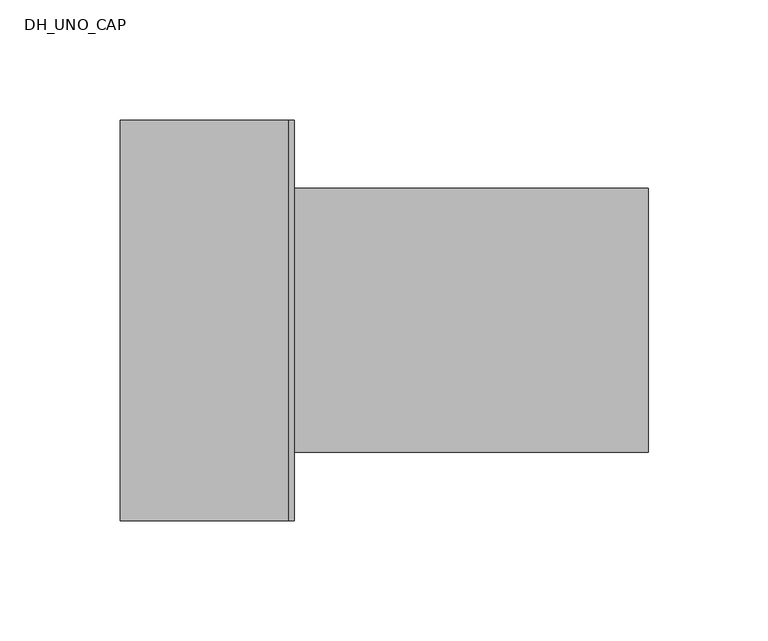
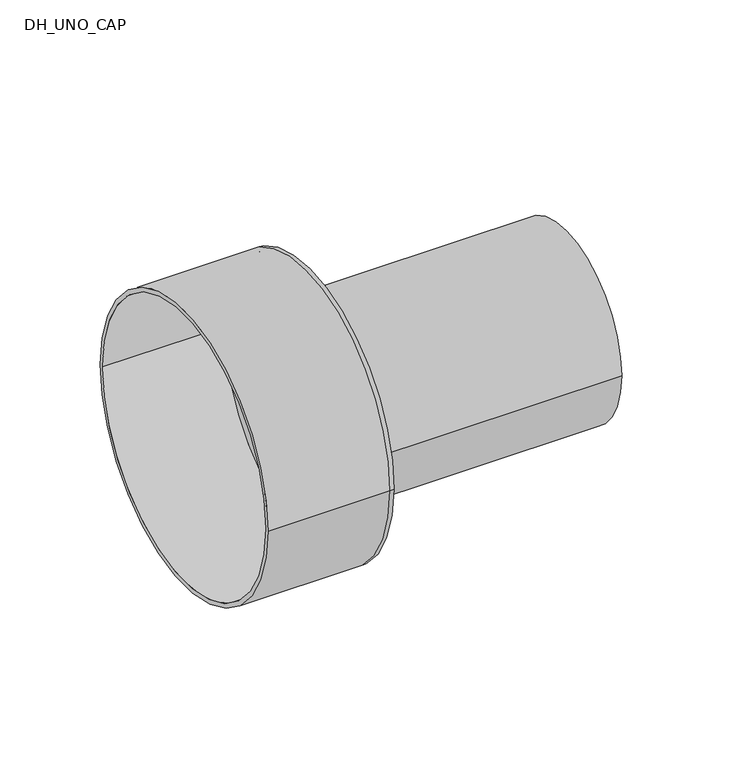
"""IFC4 building model written with IfcOpenShell, lengths in millimetres: pipe fitting geometry, DH_UNO_CAP : RAUTHERMEX UNO 11 COOL - Solid Cap."""

from ifc_helpers import new_model, si_unit, point, frame, origin, origin_2d, place, context, project, spatial, polyline, circle_curve, trimmed, segment, composite_curve, outline, extrude, source, transform, mapped, element, save
from ifc_brep_helpers import plane_surface, cylinder_surface, revolved_surface, advanced_brep


def dh_uno_cap_945a6275(model_context):
    return source(origin(), model_context, "Body", "SolidModel", [
        extrude(outline(composite_curve([segment(trimmed(circle_curve(origin_2d(), 55.0), [point((-55.0, 0.0))], [point((55.0, 0.0))], False, "CARTESIAN"), True, "CONTINUOUS"), segment(trimmed(circle_curve(origin_2d(), 55.0), [point((55.0, 0.0))], [point((-55.0, 0.0))], False, "CARTESIAN"), True, "CONTINUOUS")], self_intersect=False), holes=[composite_curve([segment(trimmed(circle_curve(origin_2d(), 45.0), [point((-45.0, 0.0))], [point((45.0, 0.0))], True, "CARTESIAN"), True, "CONTINUOUS"), segment(trimmed(circle_curve(origin_2d(), 45.0), [point((45.0, 0.0))], [point((-45.0, 0.0))], True, "CARTESIAN"), True, "CONTINUOUS")], self_intersect=False)]), frame((0.0, 0.0, 0.0), z_axis=(1.0, 0.0, 0.0), x_axis=(0.0, 1.0, 0.0)), (0.0, 0.0, 1.0), 150.0),
        advanced_brep(
        [(-70.0, -83.5, 0.0), (-70.0, 83.5, 0.0), (-70.0, -81.0, 0.0), (-70.0, 81.0, 0.0), (0.0, -81.0, 0.0), (0.0, 81.0, 0.0), (0.0, -83.5, 0.0), (0.0, 83.5, 0.0), (0.0, 55.0, 0.0), (0.0, -55.0, 0.0), (2.5, -83.5, 0.0), (2.5, 83.5, 0.0), (2.5, -55.0, 0.0), (2.5, 55.0, 0.0)],
        [
            (0, 1, circle_curve(frame((-70.0, 0.0, 0.0), z_axis=(-1.0, 0.0, 0.0), x_axis=(0.0, 1.0, 0.0)), 83.5)),
            (1, 0, circle_curve(frame((-70.0, 0.0, 0.0), z_axis=(-1.0, 0.0, 0.0), x_axis=(0.0, 1.0, 0.0)), 83.5)),
            (2, 3, circle_curve(frame((-70.0, 0.0, 0.0), z_axis=(1.0, 0.0, 0.0), x_axis=(0.0, 1.0, 0.0)), 81.0)),
            (3, 2, circle_curve(frame((-70.0, 0.0, 0.0), z_axis=(1.0, 0.0, 0.0), x_axis=(0.0, 1.0, 0.0)), 81.0)),
            (2, 4),
            (4, 5, circle_curve(frame((0.0, 0.0, 0.0), z_axis=(1.0, 0.0, 0.0), x_axis=(0.0, 1.0, 0.0)), 81.0)),
            (5, 3),
            (5, 4, circle_curve(frame((0.0, 0.0, 0.0), z_axis=(1.0, 0.0, 0.0), x_axis=(0.0, 1.0, 0.0)), 81.0)),
            (0, 6),
            (6, 7, circle_curve(frame((0.0, 0.0, 0.0), z_axis=(-1.0, 0.0, 0.0), x_axis=(0.0, 1.0, 0.0)), 83.5)),
            (7, 1),
            (7, 6, circle_curve(frame((0.0, 0.0, 0.0), z_axis=(-1.0, 0.0, 0.0), x_axis=(0.0, 1.0, 0.0)), 83.5)),
            (8, 9, circle_curve(frame((0.0, 0.0, 0.0), z_axis=(1.0, 0.0, 0.0), x_axis=(0.0, 1.0, 0.0)), 55.0)),
            (9, 8, circle_curve(frame((0.0, 0.0, 0.0), z_axis=(1.0, 0.0, 0.0), x_axis=(0.0, 1.0, 0.0)), 55.0)),
            (10, 11, circle_curve(frame((2.5, 0.0, 0.0), z_axis=(1.0, 0.0, 0.0), x_axis=(0.0, 1.0, 0.0)), 83.5)),
            (11, 10, circle_curve(frame((2.5, 0.0, 0.0), z_axis=(1.0, 0.0, 0.0), x_axis=(0.0, 1.0, 0.0)), 83.5)),
            (12, 13, circle_curve(frame((2.5, 0.0, 0.0), z_axis=(-1.0, 0.0, 0.0), x_axis=(0.0, 1.0, 0.0)), 55.0)),
            (13, 12, circle_curve(frame((2.5, 0.0, 0.0), z_axis=(-1.0, 0.0, 0.0), x_axis=(0.0, 1.0, 0.0)), 55.0)),
            (11, 7),
            (6, 10),
            (8, 13),
            (12, 9),
        ],
        [
            plane_surface(frame((-70.0, 0.0, 0.0), z_axis=(-1.0, 0.0, 0.0), x_axis=(0.0, 0.0, 1.0))),
            revolved_surface(polyline([(0.0, 81.0, 0.0), (-70.0, 81.0, 0.0)]), (-70.0, 0.0, 0.0), (1.0, 0.0, 0.0)),
            cylinder_surface(frame((-70.0, 0.0, 0.0), z_axis=(-1.0, 0.0, 0.0), x_axis=(0.0, 1.0, 0.0)), 83.5),
            plane_surface(frame((0.0, 0.0, 0.0), z_axis=(-1.0, 0.0, 0.0), x_axis=(0.0, 0.0, 1.0))),
            plane_surface(frame((2.5, 0.0, 0.0), z_axis=(1.0, 0.0, 0.0), x_axis=(0.0, 0.0, 1.0))),
            cylinder_surface(frame((0.0, 0.0, 0.0), z_axis=(-1.0, 0.0, 0.0), x_axis=(0.0, 1.0, 0.0)), 83.5),
            revolved_surface(polyline([(0.0, 55.0, 0.0), (2.5, 55.0, 0.0)]), (0.0, 0.0, 0.0), (-1.0, 0.0, 0.0)),
        ],
        [
            (0, [[1, 2], [3, 4]]),
            (1, [[-3, 5, 6, 7]]),
            (1, [[-4, -7, 8, -5]]),
            (2, [[-1, 9, 10, 11]]),
            (2, [[-2, -11, 12, -9]]),
            (3, [[-6, -8], [13, 14]]),
            (4, [[15, 16], [17, 18]]),
            (5, [[-16, 19, -10, 20]]),
            (5, [[-15, -20, -12, -19]]),
            (6, [[21, -17, 22, -13]]),
            (6, [[-21, -14, -22, -18]]),
        ],
    ),
    ])


if __name__ == "__main__":
    model = new_model("IFC4")
    model_context = context("Model", 3, world=origin())
    ifc_project = project(units=[si_unit("LENGTHUNIT", "METRE", prefix="MILLI")], contexts=[model_context])
    site = spatial("IfcSite", under=ifc_project)
    building = spatial("IfcBuilding", under=site)
    placement = place(None, origin())
    dh_uno_cap_shape = dh_uno_cap_945a6275(model_context)
    element("IfcPipeFitting", 1, ObjectType="DH_UNO_CAP : RAUTHERMEX UNO 11 COOL - Solid Cap", at=placement, inside=building, context=model_context, shape_type="MappedRepresentation", body=[
        mapped(dh_uno_cap_shape, transform((0.0, 0.0, 0.0), x_axis=(1.0, 0.0, 0.0), y_axis=(0.0, 1.0, 0.0), z_axis=(0.0, 0.0, 1.0))),
    ])
    save(model, "model.ifc")
